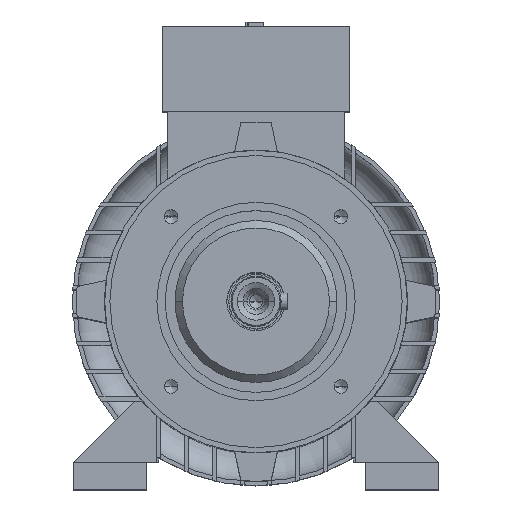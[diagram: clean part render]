
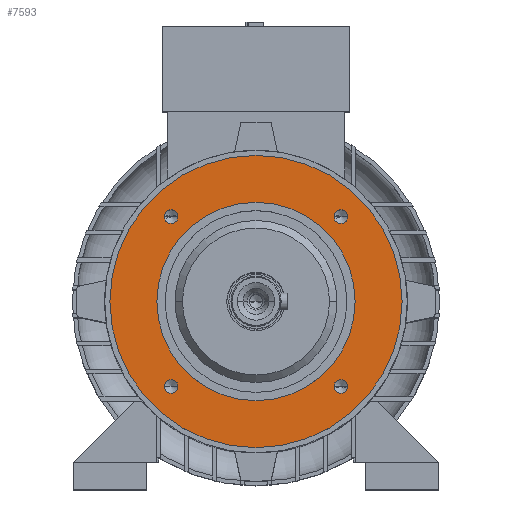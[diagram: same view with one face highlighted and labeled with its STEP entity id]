
A CAD part, top view. The second image highlights one B-rep face of the part: STEP entity #7593.
In plain terms, the highlighted planar face has unit normal (0, 0, 1).
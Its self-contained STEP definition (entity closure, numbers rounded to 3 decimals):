
#86 = CARTESIAN_POINT ( 'NONE',  ( -37.409, 40.659, 106. ) ) ;
#144 = EDGE_CURVE ( 'NONE', #13531, #10985, #4278, .T. ) ;
#900 = CIRCLE ( 'NONE', #14160, 70. ) ;
#1092 = CARTESIAN_POINT ( 'NONE',  ( -40.659, 40.659, 106. ) ) ;
#1221 = AXIS2_PLACEMENT_3D ( 'NONE', #12855, #9082, #12910 ) ;
#1264 = DIRECTION ( 'NONE',  ( -1., 0., 0. ) ) ;
#1573 = VERTEX_POINT ( 'NONE', #4576 ) ;
#1763 = ORIENTED_EDGE ( 'NONE', *, *, #6548, .F. ) ;
#1799 = CARTESIAN_POINT ( 'NONE',  ( -40.659, 40.659, 106. ) ) ;
#1827 = CARTESIAN_POINT ( 'NONE',  ( 0., 0., 106. ) ) ;
#2111 = CARTESIAN_POINT ( 'NONE',  ( -47.5, 0., 106. ) ) ;
#2181 = EDGE_LOOP ( 'NONE', ( #1763, #8871 ) ) ;
#2298 = CARTESIAN_POINT ( 'NONE',  ( 40.659, 40.659, 106. ) ) ;
#2433 = VERTEX_POINT ( 'NONE', #86 ) ;
#2597 = DIRECTION ( 'NONE',  ( 0., 0., 1. ) ) ;
#2774 = EDGE_CURVE ( 'NONE', #5252, #10161, #13711, .T. ) ;
#2931 = ORIENTED_EDGE ( 'NONE', *, *, #12909, .F. ) ;
#3140 = EDGE_LOOP ( 'NONE', ( #14455, #9053 ) ) ;
#3370 = CIRCLE ( 'NONE', #8378, 3.25 ) ;
#3431 = DIRECTION ( 'NONE',  ( 0., 0., 1. ) ) ;
#3574 = DIRECTION ( 'NONE',  ( 0., 0., 1. ) ) ;
#3593 = CIRCLE ( 'NONE', #15765, 70. ) ;
#3794 = CARTESIAN_POINT ( 'NONE',  ( 0., 0., 106. ) ) ;
#3955 = CARTESIAN_POINT ( 'NONE',  ( -43.909, -40.659, 106. ) ) ;
#4000 = CIRCLE ( 'NONE', #12916, 47.5 ) ;
#4020 = CIRCLE ( 'NONE', #9641, 3.25 ) ;
#4278 = CIRCLE ( 'NONE', #10183, 3.25 ) ;
#4361 = DIRECTION ( 'NONE',  ( 1., 0., 0. ) ) ;
#4471 = ORIENTED_EDGE ( 'NONE', *, *, #10778, .F. ) ;
#4576 = CARTESIAN_POINT ( 'NONE',  ( 37.409, 40.659, 106. ) ) ;
#4779 = CARTESIAN_POINT ( 'NONE',  ( 70., 0., 106. ) ) ;
#5039 = DIRECTION ( 'NONE',  ( 1., 0., 0. ) ) ;
#5232 = ORIENTED_EDGE ( 'NONE', *, *, #15055, .T. ) ;
#5252 = VERTEX_POINT ( 'NONE', #10587 ) ;
#5332 = EDGE_CURVE ( 'NONE', #12488, #8951, #900, .T. ) ;
#5664 = VERTEX_POINT ( 'NONE', #7623 ) ;
#5863 = CARTESIAN_POINT ( 'NONE',  ( 47.5, 0., 106. ) ) ;
#5965 = DIRECTION ( 'NONE',  ( 1., 0., 0. ) ) ;
#6149 = FACE_BOUND ( 'NONE', #15963, .T. ) ;
#6342 = CARTESIAN_POINT ( 'NONE',  ( 43.909, 40.659, 106. ) ) ;
#6548 = EDGE_CURVE ( 'NONE', #2433, #5664, #7509, .T. ) ;
#6705 = VERTEX_POINT ( 'NONE', #6342 ) ;
#6733 = FACE_BOUND ( 'NONE', #3140, .T. ) ;
#7008 = CARTESIAN_POINT ( 'NONE',  ( 43.909, -40.659, 106. ) ) ;
#7126 = DIRECTION ( 'NONE',  ( 0., 0., 1. ) ) ;
#7379 = CARTESIAN_POINT ( 'NONE',  ( 0., 0., 106. ) ) ;
#7509 = CIRCLE ( 'NONE', #7685, 3.25 ) ;
#7593 = ADVANCED_FACE ( 'NONE', ( #16105, #12417, #9080, #6733, #6149, #13572 ), #10948, .T. ) ;
#7623 = CARTESIAN_POINT ( 'NONE',  ( -43.909, 40.659, 106. ) ) ;
#7685 = AXIS2_PLACEMENT_3D ( 'NONE', #1092, #12456, #13600 ) ;
#8115 = ORIENTED_EDGE ( 'NONE', *, *, #14546, .F. ) ;
#8378 = AXIS2_PLACEMENT_3D ( 'NONE', #12038, #7126, #5965 ) ;
#8430 = EDGE_LOOP ( 'NONE', ( #8115, #4471 ) ) ;
#8616 = EDGE_CURVE ( 'NONE', #5664, #2433, #14495, .T. ) ;
#8847 = AXIS2_PLACEMENT_3D ( 'NONE', #11148, #14687, #13602 ) ;
#8871 = ORIENTED_EDGE ( 'NONE', *, *, #8616, .F. ) ;
#8879 = CARTESIAN_POINT ( 'NONE',  ( -70., 0., 106. ) ) ;
#8951 = VERTEX_POINT ( 'NONE', #8879 ) ;
#9007 = CARTESIAN_POINT ( 'NONE',  ( -40.659, -40.659, 106. ) ) ;
#9053 = ORIENTED_EDGE ( 'NONE', *, *, #2774, .F. ) ;
#9080 = FACE_BOUND ( 'NONE', #8430, .T. ) ;
#9082 = DIRECTION ( 'NONE',  ( 0., 0., 1. ) ) ;
#9152 = AXIS2_PLACEMENT_3D ( 'NONE', #9841, #3431, #15961 ) ;
#9341 = EDGE_CURVE ( 'NONE', #10985, #13531, #3370, .T. ) ;
#9641 = AXIS2_PLACEMENT_3D ( 'NONE', #11035, #3574, #12294 ) ;
#9685 = CARTESIAN_POINT ( 'NONE',  ( -37.409, -40.659, 106. ) ) ;
#9841 = CARTESIAN_POINT ( 'NONE',  ( 0., 70., 106. ) ) ;
#10161 = VERTEX_POINT ( 'NONE', #7008 ) ;
#10183 = AXIS2_PLACEMENT_3D ( 'NONE', #9007, #2597, #5039 ) ;
#10248 = CIRCLE ( 'NONE', #14155, 47.5 ) ;
#10548 = DIRECTION ( 'NONE',  ( 0., 0., -1. ) ) ;
#10587 = CARTESIAN_POINT ( 'NONE',  ( 37.409, -40.659, 106. ) ) ;
#10753 = DIRECTION ( 'NONE',  ( -1., 0., 0. ) ) ;
#10778 = EDGE_CURVE ( 'NONE', #1573, #6705, #13681, .T. ) ;
#10921 = AXIS2_PLACEMENT_3D ( 'NONE', #2298, #12234, #16044 ) ;
#10948 = PLANE ( 'NONE',  #9152 ) ;
#10985 = VERTEX_POINT ( 'NONE', #3955 ) ;
#11035 = CARTESIAN_POINT ( 'NONE',  ( 40.659, 40.659, 106. ) ) ;
#11077 = DIRECTION ( 'NONE',  ( 0., 0., -1. ) ) ;
#11148 = CARTESIAN_POINT ( 'NONE',  ( 40.659, -40.659, 106. ) ) ;
#11288 = VERTEX_POINT ( 'NONE', #2111 ) ;
#11293 = CARTESIAN_POINT ( 'NONE',  ( 0., 0., 106. ) ) ;
#11847 = ORIENTED_EDGE ( 'NONE', *, *, #144, .F. ) ;
#12000 = ORIENTED_EDGE ( 'NONE', *, *, #5332, .F. ) ;
#12038 = CARTESIAN_POINT ( 'NONE',  ( -40.659, -40.659, 106. ) ) ;
#12153 = EDGE_LOOP ( 'NONE', ( #11847, #14388 ) ) ;
#12234 = DIRECTION ( 'NONE',  ( 0., 0., 1. ) ) ;
#12294 = DIRECTION ( 'NONE',  ( 1., 0., 0. ) ) ;
#12336 = ORIENTED_EDGE ( 'NONE', *, *, #14595, .T. ) ;
#12341 = VERTEX_POINT ( 'NONE', #5863 ) ;
#12417 = FACE_BOUND ( 'NONE', #2181, .T. ) ;
#12456 = DIRECTION ( 'NONE',  ( 0., 0., 1. ) ) ;
#12488 = VERTEX_POINT ( 'NONE', #4779 ) ;
#12855 = CARTESIAN_POINT ( 'NONE',  ( 40.659, -40.659, 106. ) ) ;
#12909 = EDGE_CURVE ( 'NONE', #8951, #12488, #3593, .T. ) ;
#12910 = DIRECTION ( 'NONE',  ( 1., 0., 0. ) ) ;
#12916 = AXIS2_PLACEMENT_3D ( 'NONE', #11293, #13964, #15070 ) ;
#13077 = AXIS2_PLACEMENT_3D ( 'NONE', #1799, #14233, #4361 ) ;
#13531 = VERTEX_POINT ( 'NONE', #9685 ) ;
#13572 = FACE_OUTER_BOUND ( 'NONE', #15372, .T. ) ;
#13600 = DIRECTION ( 'NONE',  ( 1., 0., 0. ) ) ;
#13602 = DIRECTION ( 'NONE',  ( 1., 0., 0. ) ) ;
#13681 = CIRCLE ( 'NONE', #10921, 3.25 ) ;
#13691 = CIRCLE ( 'NONE', #8847, 3.25 ) ;
#13711 = CIRCLE ( 'NONE', #1221, 3.25 ) ;
#13964 = DIRECTION ( 'NONE',  ( 0., 0., -1. ) ) ;
#14155 = AXIS2_PLACEMENT_3D ( 'NONE', #3794, #15179, #1264 ) ;
#14160 = AXIS2_PLACEMENT_3D ( 'NONE', #7379, #11077, #14792 ) ;
#14233 = DIRECTION ( 'NONE',  ( 0., 0., 1. ) ) ;
#14388 = ORIENTED_EDGE ( 'NONE', *, *, #9341, .F. ) ;
#14455 = ORIENTED_EDGE ( 'NONE', *, *, #16045, .F. ) ;
#14495 = CIRCLE ( 'NONE', #13077, 3.25 ) ;
#14546 = EDGE_CURVE ( 'NONE', #6705, #1573, #4020, .T. ) ;
#14595 = EDGE_CURVE ( 'NONE', #12341, #11288, #10248, .T. ) ;
#14687 = DIRECTION ( 'NONE',  ( 0., 0., 1. ) ) ;
#14792 = DIRECTION ( 'NONE',  ( -1., 0., 0. ) ) ;
#15055 = EDGE_CURVE ( 'NONE', #11288, #12341, #4000, .T. ) ;
#15070 = DIRECTION ( 'NONE',  ( -1., 0., 0. ) ) ;
#15179 = DIRECTION ( 'NONE',  ( 0., 0., -1. ) ) ;
#15372 = EDGE_LOOP ( 'NONE', ( #2931, #12000 ) ) ;
#15765 = AXIS2_PLACEMENT_3D ( 'NONE', #1827, #10548, #10753 ) ;
#15961 = DIRECTION ( 'NONE',  ( 1., 0., 0. ) ) ;
#15963 = EDGE_LOOP ( 'NONE', ( #5232, #12336 ) ) ;
#16044 = DIRECTION ( 'NONE',  ( 1., 0., 0. ) ) ;
#16045 = EDGE_CURVE ( 'NONE', #10161, #5252, #13691, .T. ) ;
#16105 = FACE_BOUND ( 'NONE', #12153, .T. ) ;
